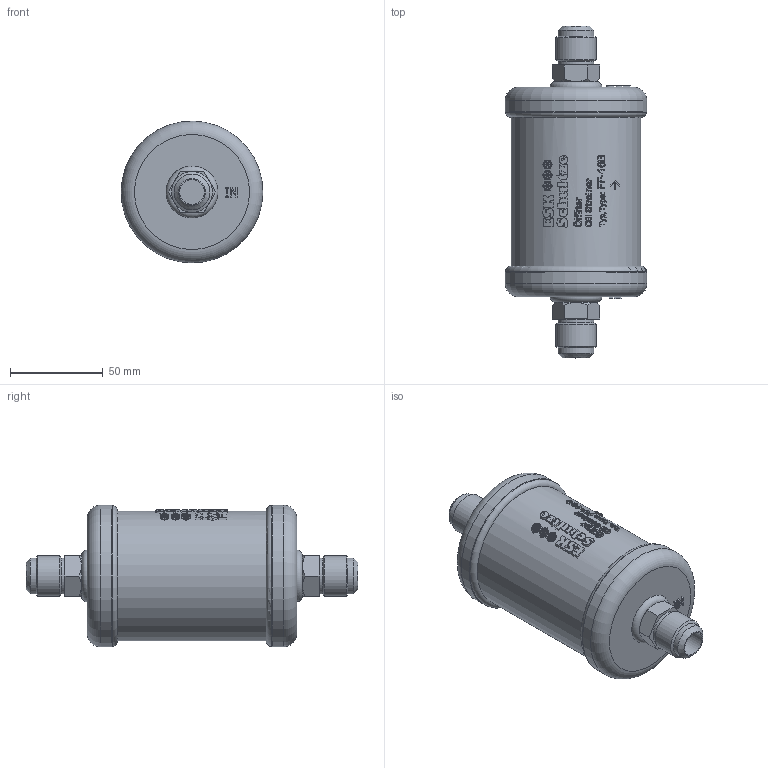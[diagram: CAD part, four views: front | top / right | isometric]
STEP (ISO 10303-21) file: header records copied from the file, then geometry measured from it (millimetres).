
FILE_DESCRIPTION(/* description */ (''),/* implementation_level */ '2;1');
FILE_NAME(/* name */ 'P:\F\FF-16B\FF-16B.stp',/* time_stamp */ '2017-10-05T08:19:41+02:00',/* author */ ('neufeld'),/* organization */ (''),/* preprocessor_version */ 'ST-DEVELOPER v16.1',/* originating_system */ 'Autodesk Inventor 2016',/* authorisation */ '');
FILE_SCHEMA (('AUTOMOTIVE_DESIGN { 1 0 10303 214 3 1 1 }'));
Length unit declared in the file: millimetre
Products named in the file (2): FF-16B; FF-16B_1
Assembly tree (1 placements, depth 2):
  FF-16B_1
    FF-16B
Bounding box: 76.43 x 179.01 x 76.43 mm (x, y, z)
Volume: 472477.2 mm3; surface area: 41317.9 mm2
Topology: 1 solids, 1 shells, 911 faces, 2465 edges, 1641 vertices
Faces by surface type: plane 554, bspline 253, cylinder 78, cone 18, torus 8
Full cylindrical faces by diameter (mm): 13.3 x2, 19.3 x4, 22 x2, 70 x1, 76.434 x2
Entity records: 33222 total; most frequent: CARTESIAN_POINT 11451, ORIENTED_EDGE 4866, DIRECTION 3961, EDGE_CURVE 2433, VERTEX_POINT 1634, AXIS2_PLACEMENT_3D 1397, LINE 1167, VECTOR 1167
